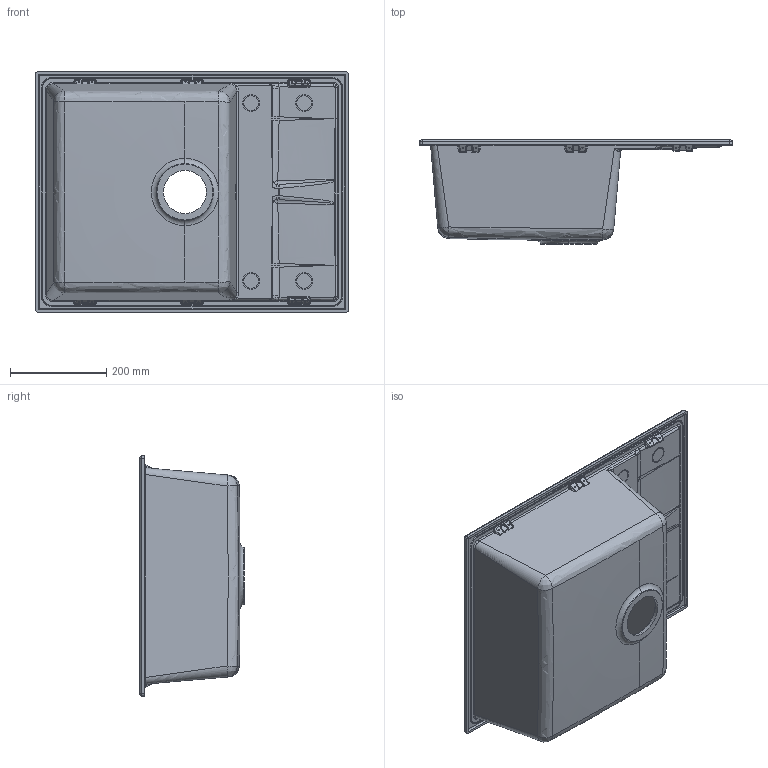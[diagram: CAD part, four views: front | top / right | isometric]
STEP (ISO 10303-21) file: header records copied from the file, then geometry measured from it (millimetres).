
FILE_DESCRIPTION (( 'STEP AP203' ), '1' );
FILE_NAME ('UNICO125.STEP', '2018-10-11T09:38:20', ( '' ), ( '' ), 'SwSTEP 2.0', 'SolidWorks 2013', '' );
FILE_SCHEMA (( 'CONFIG_CONTROL_DESIGN' ));
Products named in the file (1): UNICO125
Bounding box: 650 x 216.49 x 500 mm (x, y, z)
Volume: 4842124.3 mm3; surface area: 1207560.8 mm2
Topology: 1 solids, 1 shells, 699 faces, 1683 edges, 962 vertices
Faces by surface type: bspline 373, cylinder 229, plane 85, torus 8, cone 4
Entity records: 75360 total; most frequent: CARTESIAN_POINT 62156, ORIENTED_EDGE 3270, DIRECTION 1990, EDGE_CURVE 1635, VERTEX_POINT 962, AXIS2_PLACEMENT_3D 792, EDGE_LOOP 727, B_SPLINE_CURVE_WITH_KNOTS 705
